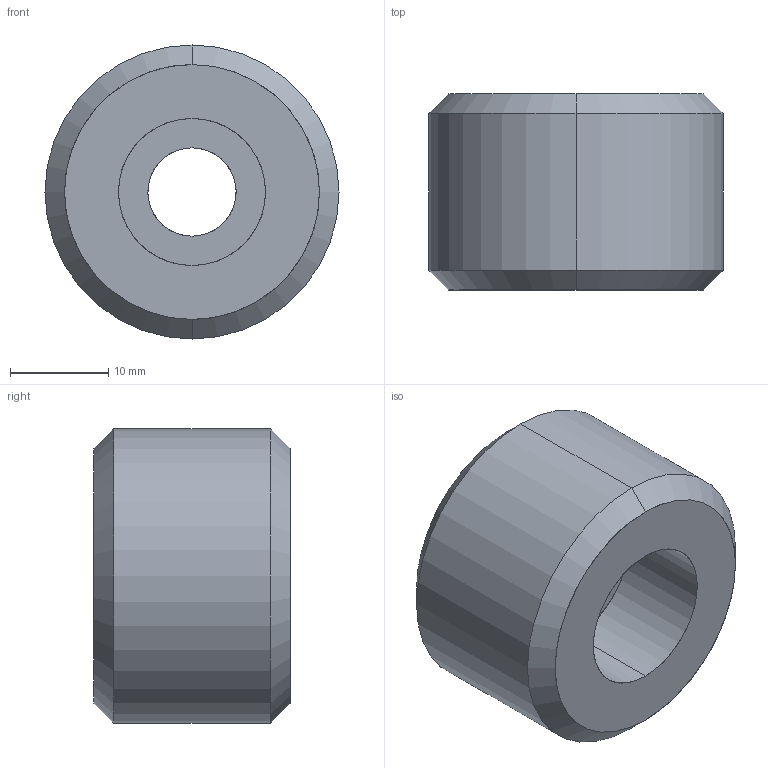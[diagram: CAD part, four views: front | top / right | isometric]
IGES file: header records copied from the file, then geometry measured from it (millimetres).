
Start section: START RECORD GO HERE.
Global section: file name: 758+30+20+10.igs; native system: DASSAULT SYSTEMES CATIA V5 R20 - www.3ds.com; preprocessor: CATIA Version 5 Release 20 ; author: Utente; organization: NB04-ASUS; date: 20201028.202501; units: millimetre
Bounding box: 30 x 20 x 30 mm (x, y, z)
Surface area: 3694.2 mm2 (no closed solid volume)
Topology: 0 solids, 0 shells, 13 faces, 52 edges, 52 vertices
Faces by surface type: revolution 10, plane 3
